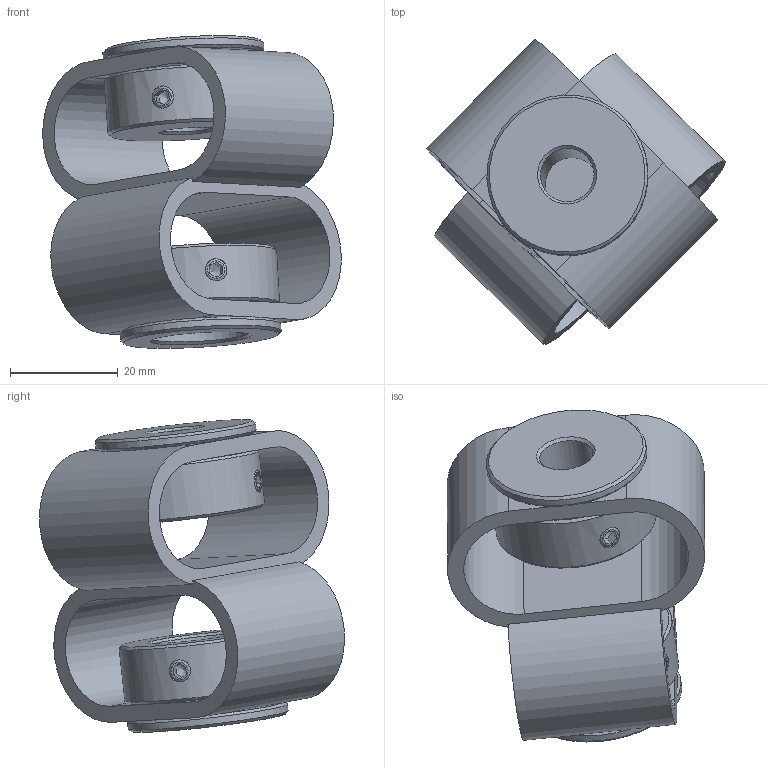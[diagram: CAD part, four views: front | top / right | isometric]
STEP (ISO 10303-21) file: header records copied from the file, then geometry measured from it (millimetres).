
FILE_DESCRIPTION(/* description */ (''),/* implementation_level */ '2;1');
FILE_NAME(/* name */ 'E:\ABP_bauteile\Doppelschlaufenkupplung\DKPS_5658\Doppelschlaufenkupplung_DKPS_5658_10_18.stp',/* time_stamp */ '2015-03-13T11:23:37+01:00',/* author */ ('Rob'),/* organization */ (''),/* preprocessor_version */ 'ST-DEVELOPER v15.6',/* originating_system */ 'Autodesk Inventor 2015',/* authorisation */ '');
FILE_SCHEMA (('CONFIG_CONTROL_DESIGN'));
Length unit declared in the file: millimetre
Products named in the file (1): Bauteil33
Bounding box: 55.53 x 56.74 x 58.16 mm (x, y, z)
Volume: 31239.5 mm3; surface area: 18088.7 mm2
Topology: 1 solids, 1 shells, 146 faces, 366 edges, 220 vertices
Faces by surface type: plane 84, cone 34, cylinder 28
Full cylindrical faces by diameter (mm): 4.134 x8, 10 x1, 18 x1, 21.5 x2, 23 x4, 30 x4
Entity records: 4186 total; most frequent: CARTESIAN_POINT 1059, DIRECTION 662, ORIENTED_EDGE 568, EDGE_CURVE 284, AXIS2_PLACEMENT_3D 265, EDGE_LOOP 214, VERTEX_POINT 184, FACE_OUTER_BOUND 146
